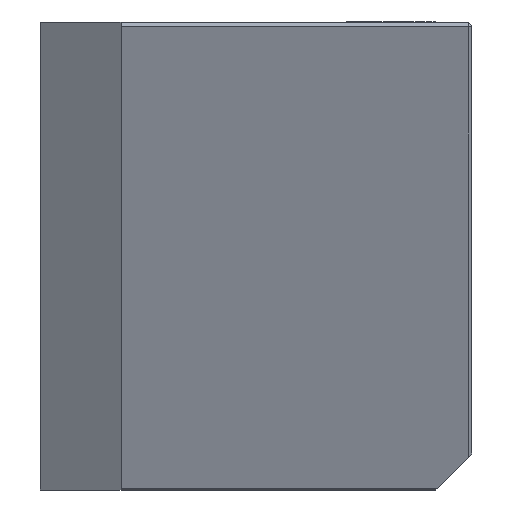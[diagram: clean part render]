
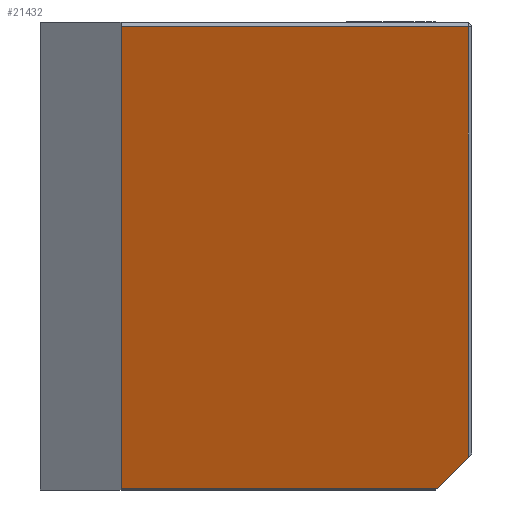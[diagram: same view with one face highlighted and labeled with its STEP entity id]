
A CAD part, left-side view. The second image highlights one B-rep face of the part: STEP entity #21432.
In plain terms, the highlighted planar face has unit normal (-0.943, 0, -0.334).
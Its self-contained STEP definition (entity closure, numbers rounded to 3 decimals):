
#7525=DIRECTION('',(-0.334,0.,0.942));
#7526=VECTOR('',#7525,27.204);
#7527=CARTESIAN_POINT('',(9.4,19.5,-25.906));
#7528=LINE('',#7527,#7526);
#7529=DIRECTION('',(0.,-1.,0.));
#7530=VECTOR('',#7529,19.3);
#7531=CARTESIAN_POINT('',(0.307,19.5,-0.267));
#7532=LINE('',#7531,#7530);
#7533=DIRECTION('',(0.334,0.,-0.942));
#7534=VECTOR('',#7533,25.394);
#7535=CARTESIAN_POINT('',(0.307,0.2,-0.267));
#7536=LINE('',#7535,#7534);
#7537=DIRECTION('',(-0.243,-0.686,0.686));
#7538=VECTOR('',#7537,2.487);
#7539=CARTESIAN_POINT('',(9.4,1.906,-25.906));
#7540=LINE('',#7539,#7538);
#7541=DIRECTION('',(0.,-1.,0.));
#7542=VECTOR('',#7541,17.594);
#7543=CARTESIAN_POINT('',(9.4,19.5,-25.906));
#7544=LINE('',#7543,#7542);
#10753=CARTESIAN_POINT('',(9.4,19.5,-25.906));
#10754=CARTESIAN_POINT('',(0.307,19.5,-0.267));
#10755=VERTEX_POINT('',#10753);
#10756=VERTEX_POINT('',#10754);
#10768=CARTESIAN_POINT('',(8.795,0.2,-24.2));
#10770=VERTEX_POINT('',#10768);
#10771=CARTESIAN_POINT('',(0.307,0.2,-0.267));
#10772=VERTEX_POINT('',#10771);
#10777=CARTESIAN_POINT('',(9.4,1.906,
-25.906));
#10779=VERTEX_POINT('',#10777);
#21420=CARTESIAN_POINT('',(9.434,0.,-26.));
#21421=DIRECTION('',(-0.942,0.,-0.334));
#21422=DIRECTION('',(-0.334,0.,0.942));
#21423=AXIS2_PLACEMENT_3D('',#21420,#21421,#21422);
#21424=PLANE('',#21423);
#21425=ORIENTED_EDGE('',*,*,#21255,.T.);
#21426=ORIENTED_EDGE('',*,*,#21273,.T.);
#21427=ORIENTED_EDGE('',*,*,#21297,.T.);
#21428=ORIENTED_EDGE('',*,*,#21314,.F.);
#21429=ORIENTED_EDGE('',*,*,#21413,.F.);
#21430=EDGE_LOOP('',(#21425,#21426,#21427,#21428,#21429));
#21431=FACE_OUTER_BOUND('',#21430,.F.);
#21432=ADVANCED_FACE('',(#21431),#21424,.T.);
#21255=EDGE_CURVE('',#10755,#10756,#7528,.T.);
#21273=EDGE_CURVE('',#10756,#10772,#7532,.T.);
#21297=EDGE_CURVE('',#10772,#10770,#7536,.T.);
#21314=EDGE_CURVE('',#10779,#10770,#7540,.T.);
#21413=EDGE_CURVE('',#10755,#10779,#7544,.T.);
